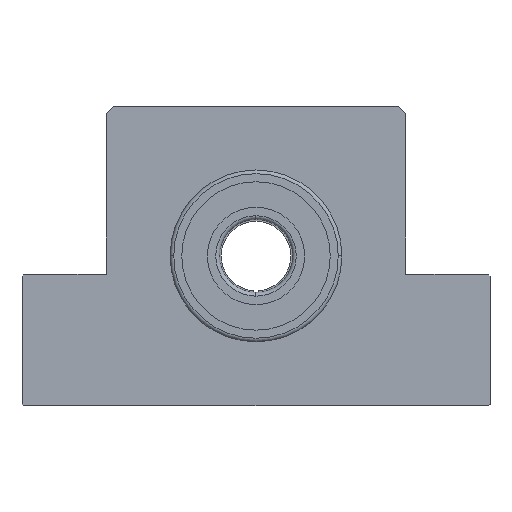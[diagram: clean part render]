
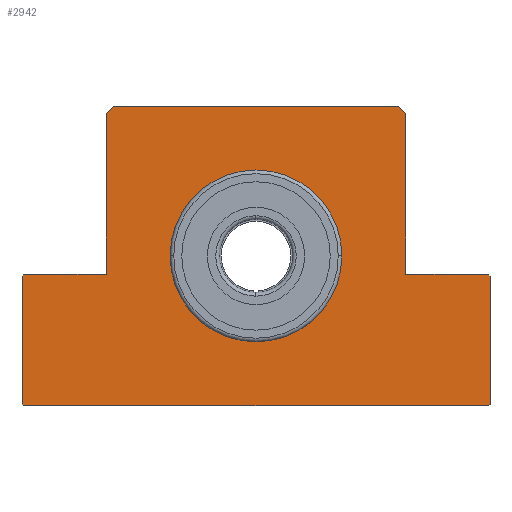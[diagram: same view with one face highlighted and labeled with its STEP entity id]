
A CAD part, top view. The second image highlights one B-rep face of the part: STEP entity #2942.
In plain terms, the highlighted planar face has unit normal (0, 0, 1).
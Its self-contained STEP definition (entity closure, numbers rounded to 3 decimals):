
#47 = CARTESIAN_POINT ( 'NONE',  ( -63.5, -41., 26. ) ) ;
#48 = ORIENTED_EDGE ( 'NONE', *, *, #1036, .T. ) ;
#70 = EDGE_LOOP ( 'NONE', ( #1820, #1042, #2643, #48, #2222, #733, #658, #2915, #681, #1756, #1616, #3098, #125, #2524 ) ) ;
#121 = VECTOR ( 'NONE', #200, 1000. ) ;
#125 = ORIENTED_EDGE ( 'NONE', *, *, #3025, .T. ) ;
#128 = EDGE_CURVE ( 'NONE', #1572, #1217, #1772, .T. ) ;
#169 = LINE ( 'NONE', #3209, #121 ) ;
#200 = DIRECTION ( 'NONE',  ( 0., 1., 0. ) ) ;
#205 = CARTESIAN_POINT ( 'NONE',  ( -23.5, 0., 26. ) ) ;
#215 = DIRECTION ( 'NONE',  ( 0.707, -0.707, 0. ) ) ;
#240 = CARTESIAN_POINT ( 'NONE',  ( 0., 0., 26. ) ) ;
#264 = VERTEX_POINT ( 'NONE', #403 ) ;
#303 = CARTESIAN_POINT ( 'NONE',  ( -64., -5.5, 26. ) ) ;
#327 = CARTESIAN_POINT ( 'NONE',  ( 63.5, -41., 26. ) ) ;
#403 = CARTESIAN_POINT ( 'NONE',  ( -64., -40.5, 26. ) ) ;
#410 = VERTEX_POINT ( 'NONE', #205 ) ;
#536 = DIRECTION ( 'NONE',  ( -0.707, 0.707, 0. ) ) ;
#567 = DIRECTION ( 'NONE',  ( 0., 1., 0. ) ) ;
#578 = EDGE_CURVE ( 'NONE', #3105, #1316, #3103, .T. ) ;
#591 = VECTOR ( 'NONE', #2826, 1000. ) ;
#599 = DIRECTION ( 'NONE',  ( 0., -1., 0. ) ) ;
#609 = VERTEX_POINT ( 'NONE', #303 ) ;
#618 = DIRECTION ( 'NONE',  ( 1., 0., 0. ) ) ;
#622 = CARTESIAN_POINT ( 'NONE',  ( 0., 0., 26. ) ) ;
#658 = ORIENTED_EDGE ( 'NONE', *, *, #2202, .T. ) ;
#681 = ORIENTED_EDGE ( 'NONE', *, *, #2034, .T. ) ;
#733 = ORIENTED_EDGE ( 'NONE', *, *, #1053, .T. ) ;
#747 = VERTEX_POINT ( 'NONE', #2390 ) ;
#772 = VECTOR ( 'NONE', #567, 1000. ) ;
#821 = VECTOR ( 'NONE', #536, 1000. ) ;
#837 = DIRECTION ( 'NONE',  ( 0.707, 0.707, 0. ) ) ;
#847 = EDGE_CURVE ( 'NONE', #2994, #3105, #169, .T. ) ;
#853 = LINE ( 'NONE', #327, #2510 ) ;
#862 = VECTOR ( 'NONE', #1335, 1000. ) ;
#882 = EDGE_CURVE ( 'NONE', #410, #1289, #1205, .T. ) ;
#898 = FACE_OUTER_BOUND ( 'NONE', #70, .T. ) ;
#1002 = DIRECTION ( 'NONE',  ( -1., 0., 0. ) ) ;
#1014 = DIRECTION ( 'NONE',  ( -1., 0., 0. ) ) ;
#1033 = LINE ( 'NONE', #2339, #862 ) ;
#1036 = EDGE_CURVE ( 'NONE', #609, #264, #1920, .T. ) ;
#1042 = ORIENTED_EDGE ( 'NONE', *, *, #128, .T. ) ;
#1053 = EDGE_CURVE ( 'NONE', #1847, #1263, #2171, .T. ) ;
#1102 = CARTESIAN_POINT ( 'NONE',  ( -41., 39., 26. ) ) ;
#1104 = CARTESIAN_POINT ( 'NONE',  ( -63.5, -41., 26. ) ) ;
#1205 = CIRCLE ( 'NONE', #2885, 23.5 ) ;
#1217 = VERTEX_POINT ( 'NONE', #1445 ) ;
#1254 = CARTESIAN_POINT ( 'NONE',  ( 64., -40.5, 26. ) ) ;
#1263 = VERTEX_POINT ( 'NONE', #3238 ) ;
#1264 = VECTOR ( 'NONE', #599, 1000. ) ;
#1269 = CARTESIAN_POINT ( 'NONE',  ( -41., -5., 26. ) ) ;
#1276 = CARTESIAN_POINT ( 'NONE',  ( 41., -5., 26. ) ) ;
#1289 = VERTEX_POINT ( 'NONE', #2188 ) ;
#1314 = VECTOR ( 'NONE', #618, 1000. ) ;
#1316 = VERTEX_POINT ( 'NONE', #1498 ) ;
#1335 = DIRECTION ( 'NONE',  ( -0.707, -0.707, 0. ) ) ;
#1340 = DIRECTION ( 'NONE',  ( 0., 0., 1. ) ) ;
#1376 = AXIS2_PLACEMENT_3D ( 'NONE', #622, #2469, #2914 ) ;
#1428 = CARTESIAN_POINT ( 'NONE',  ( -39., 41., 26. ) ) ;
#1445 = CARTESIAN_POINT ( 'NONE',  ( -63.5, -5., 26. ) ) ;
#1494 = EDGE_CURVE ( 'NONE', #3221, #2994, #2278, .T. ) ;
#1498 = CARTESIAN_POINT ( 'NONE',  ( 39., 41., 26. ) ) ;
#1502 = LINE ( 'NONE', #2506, #772 ) ;
#1537 = CIRCLE ( 'NONE', #1953, 23.5 ) ;
#1558 = VERTEX_POINT ( 'NONE', #1428 ) ;
#1572 = VERTEX_POINT ( 'NONE', #3224 ) ;
#1585 = LINE ( 'NONE', #3040, #1995 ) ;
#1616 = ORIENTED_EDGE ( 'NONE', *, *, #847, .T. ) ;
#1635 = EDGE_CURVE ( 'NONE', #264, #1847, #3256, .T. ) ;
#1653 = VECTOR ( 'NONE', #215, 1000. ) ;
#1665 = VERTEX_POINT ( 'NONE', #1254 ) ;
#1756 = ORIENTED_EDGE ( 'NONE', *, *, #1494, .T. ) ;
#1772 = LINE ( 'NONE', #1269, #2679 ) ;
#1812 = LINE ( 'NONE', #2010, #2276 ) ;
#1820 = ORIENTED_EDGE ( 'NONE', *, *, #2538, .T. ) ;
#1822 = CARTESIAN_POINT ( 'NONE',  ( -63.5, -5., 26. ) ) ;
#1829 = EDGE_CURVE ( 'NONE', #1558, #3182, #1033, .T. ) ;
#1847 = VERTEX_POINT ( 'NONE', #47 ) ;
#1920 = LINE ( 'NONE', #2878, #1264 ) ;
#1923 = ORIENTED_EDGE ( 'NONE', *, *, #882, .F. ) ;
#1932 = LINE ( 'NONE', #2514, #591 ) ;
#1953 = AXIS2_PLACEMENT_3D ( 'NONE', #240, #2028, #3264 ) ;
#1995 = VECTOR ( 'NONE', #1002, 1000. ) ;
#2010 = CARTESIAN_POINT ( 'NONE',  ( -41., 39., 26. ) ) ;
#2028 = DIRECTION ( 'NONE',  ( 0., 0., 1. ) ) ;
#2034 = EDGE_CURVE ( 'NONE', #747, #3221, #1932, .T. ) ;
#2068 = DIRECTION ( 'NONE',  ( -1., 0., 0. ) ) ;
#2093 = DIRECTION ( 'NONE',  ( 1., 0., 0. ) ) ;
#2166 = CARTESIAN_POINT ( 'NONE',  ( 63.5, -5., 26. ) ) ;
#2171 = LINE ( 'NONE', #1104, #1314 ) ;
#2188 = CARTESIAN_POINT ( 'NONE',  ( 23.5, 0., 26. ) ) ;
#2193 = PLANE ( 'NONE',  #1376 ) ;
#2202 = EDGE_CURVE ( 'NONE', #1263, #1665, #853, .T. ) ;
#2222 = ORIENTED_EDGE ( 'NONE', *, *, #1635, .T. ) ;
#2247 = DIRECTION ( 'NONE',  ( -0.707, -0.707, 0. ) ) ;
#2276 = VECTOR ( 'NONE', #2821, 1000. ) ;
#2278 = LINE ( 'NONE', #3272, #2762 ) ;
#2313 = CARTESIAN_POINT ( 'NONE',  ( 0., 0., 26. ) ) ;
#2339 = CARTESIAN_POINT ( 'NONE',  ( -39., 41., 26. ) ) ;
#2390 = CARTESIAN_POINT ( 'NONE',  ( 64., -5.5, 26. ) ) ;
#2469 = DIRECTION ( 'NONE',  ( 0., 0., -1. ) ) ;
#2506 = CARTESIAN_POINT ( 'NONE',  ( 64., -40.5, 26. ) ) ;
#2510 = VECTOR ( 'NONE', #837, 1000. ) ;
#2512 = ORIENTED_EDGE ( 'NONE', *, *, #2605, .F. ) ;
#2514 = CARTESIAN_POINT ( 'NONE',  ( 64., -5.5, 26. ) ) ;
#2524 = ORIENTED_EDGE ( 'NONE', *, *, #1829, .T. ) ;
#2538 = EDGE_CURVE ( 'NONE', #3182, #1572, #1812, .T. ) ;
#2569 = CARTESIAN_POINT ( 'NONE',  ( 41., 39., 26. ) ) ;
#2582 = LINE ( 'NONE', #1822, #2624 ) ;
#2605 = EDGE_CURVE ( 'NONE', #1289, #410, #1537, .T. ) ;
#2624 = VECTOR ( 'NONE', #2247, 1000. ) ;
#2643 = ORIENTED_EDGE ( 'NONE', *, *, #3074, .T. ) ;
#2650 = FACE_BOUND ( 'NONE', #2959, .T. ) ;
#2679 = VECTOR ( 'NONE', #2068, 1000. ) ;
#2762 = VECTOR ( 'NONE', #1014, 1000. ) ;
#2821 = DIRECTION ( 'NONE',  ( 0., -1., 0. ) ) ;
#2826 = DIRECTION ( 'NONE',  ( -0.707, 0.707, 0. ) ) ;
#2878 = CARTESIAN_POINT ( 'NONE',  ( -64., -5.5, 26. ) ) ;
#2885 = AXIS2_PLACEMENT_3D ( 'NONE', #2313, #1340, #2093 ) ;
#2914 = DIRECTION ( 'NONE',  ( -1., 0., 0. ) ) ;
#2915 = ORIENTED_EDGE ( 'NONE', *, *, #3031, .T. ) ;
#2942 = ADVANCED_FACE ( 'NONE', ( #898, #2650 ), #2193, .F. ) ;
#2959 = EDGE_LOOP ( 'NONE', ( #1923, #2512 ) ) ;
#2994 = VERTEX_POINT ( 'NONE', #1276 ) ;
#3002 = CARTESIAN_POINT ( 'NONE',  ( 41., 39., 26. ) ) ;
#3025 = EDGE_CURVE ( 'NONE', #1316, #1558, #1585, .T. ) ;
#3031 = EDGE_CURVE ( 'NONE', #1665, #747, #1502, .T. ) ;
#3040 = CARTESIAN_POINT ( 'NONE',  ( 39., 41., 26. ) ) ;
#3074 = EDGE_CURVE ( 'NONE', #1217, #609, #2582, .T. ) ;
#3098 = ORIENTED_EDGE ( 'NONE', *, *, #578, .T. ) ;
#3103 = LINE ( 'NONE', #2569, #821 ) ;
#3105 = VERTEX_POINT ( 'NONE', #3002 ) ;
#3182 = VERTEX_POINT ( 'NONE', #1102 ) ;
#3209 = CARTESIAN_POINT ( 'NONE',  ( 41., -5., 26. ) ) ;
#3221 = VERTEX_POINT ( 'NONE', #2166 ) ;
#3224 = CARTESIAN_POINT ( 'NONE',  ( -41., -5., 26. ) ) ;
#3238 = CARTESIAN_POINT ( 'NONE',  ( 63.5, -41., 26. ) ) ;
#3239 = CARTESIAN_POINT ( 'NONE',  ( -64., -40.5, 26. ) ) ;
#3256 = LINE ( 'NONE', #3239, #1653 ) ;
#3264 = DIRECTION ( 'NONE',  ( 1., 0., 0. ) ) ;
#3272 = CARTESIAN_POINT ( 'NONE',  ( 63.5, -5., 26. ) ) ;
